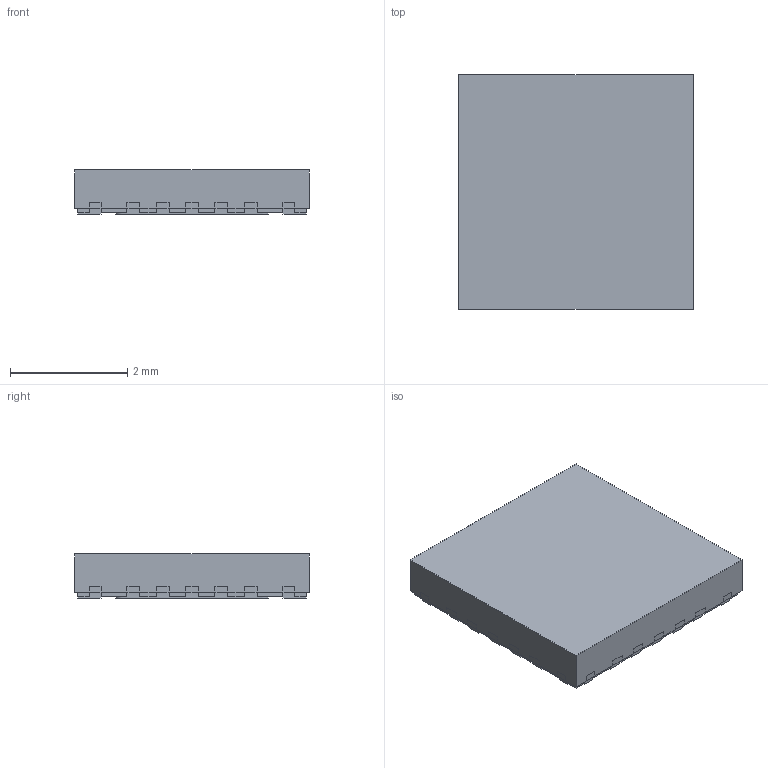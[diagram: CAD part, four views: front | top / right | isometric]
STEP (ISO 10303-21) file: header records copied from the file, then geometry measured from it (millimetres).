
FILE_DESCRIPTION (( 'STEP AP214' ), '1' );
FILE_NAME ('ES20-wettable flank.STEP', '2022-03-29T19:36:47', ( '' ), ( '' ), 'SwSTEP 2.0', 'SolidWorks 2019', '' );
FILE_SCHEMA (( 'AUTOMOTIVE_DESIGN' ));
Length unit declared in the file: millimetre
Products named in the file (1): ES20-wettable flank
Bounding box: 4 x 4 x 0.75 mm (x, y, z)
Volume: 11.7 mm3; surface area: 44.4 mm2
Topology: 1 solids, 1 shells, 278 faces, 713 edges, 438 vertices
Faces by surface type: plane 247, cylinder 31
Entity records: 8923 total; most frequent: CARTESIAN_POINT 1430, ORIENTED_EDGE 1426, DIRECTION 1333, EDGE_CURVE 713, VECTOR 651, LINE 651, VERTEX_POINT 438, AXIS2_PLACEMENT_3D 341
